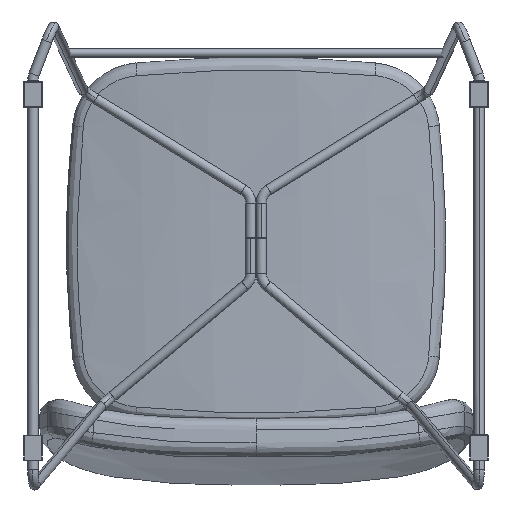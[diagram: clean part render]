
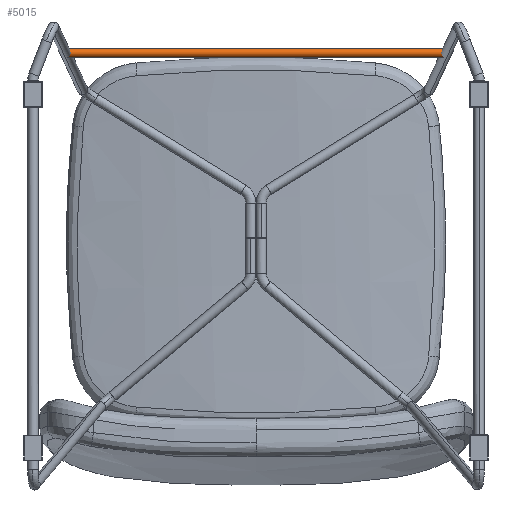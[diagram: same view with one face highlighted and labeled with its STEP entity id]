
A CAD part, front view. The second image highlights one B-rep face of the part: STEP entity #5015.
In plain terms, the highlighted cylindrical face has radius 5 mm (diameter 10 mm), a partial arc.
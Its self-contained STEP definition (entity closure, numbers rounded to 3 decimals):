
#467 = VERTEX_POINT ( 'NONE', #2524 ) ;
#682 = DIRECTION ( 'NONE',  ( 0., 0., -1. ) ) ;
#1763 = LINE ( 'NONE', #8387, #7327 ) ;
#1951 = EDGE_CURVE ( 'NONE', #2111, #6770, #9156, .T. ) ;
#2111 = VERTEX_POINT ( 'NONE', #2829 ) ;
#2130 = ORIENTED_EDGE ( 'NONE', *, *, #7806, .T. ) ;
#2453 = DIRECTION ( 'NONE',  ( 0., 0., -1. ) ) ;
#2524 = CARTESIAN_POINT ( 'NONE',  ( -223.079, 300., 219.794 ) ) ;
#2829 = CARTESIAN_POINT ( 'NONE',  ( -223.079, 300., -218.706 ) ) ;
#3426 = DIRECTION ( 'NONE',  ( -1., 0., 0. ) ) ;
#4226 = CARTESIAN_POINT ( 'NONE',  ( -228.079, 300., 219.794 ) ) ;
#5015 = ADVANCED_FACE ( 'NONE', ( #5292 ), #7950, .T. ) ;
#5132 = LINE ( 'NONE', #6910, #7965 ) ;
#5292 = FACE_OUTER_BOUND ( 'NONE', #12036, .T. ) ;
#5580 = ORIENTED_EDGE ( 'NONE', *, *, #12016, .F. ) ;
#5791 = CARTESIAN_POINT ( 'NONE',  ( -233.079, 300., 219.794 ) ) ;
#5804 = CARTESIAN_POINT ( 'NONE',  ( -233.079, 300., -218.706 ) ) ;
#6770 = VERTEX_POINT ( 'NONE', #5804 ) ;
#6910 = CARTESIAN_POINT ( 'NONE',  ( -233.079, 300., 219.794 ) ) ;
#7327 = VECTOR ( 'NONE', #12157, 1000. ) ;
#7418 = EDGE_CURVE ( 'NONE', #467, #7648, #7761, .T. ) ;
#7648 = VERTEX_POINT ( 'NONE', #5791 ) ;
#7761 = CIRCLE ( 'NONE', #9358, 5. ) ;
#7806 = EDGE_CURVE ( 'NONE', #7648, #6770, #5132, .T. ) ;
#7950 = CYLINDRICAL_SURFACE ( 'NONE', #9400, 5. ) ;
#7965 = VECTOR ( 'NONE', #8910, 1000. ) ;
#8387 = CARTESIAN_POINT ( 'NONE',  ( -223.079, 300., 219.794 ) ) ;
#8650 = ORIENTED_EDGE ( 'NONE', *, *, #7418, .T. ) ;
#8910 = DIRECTION ( 'NONE',  ( 0., 0., -1. ) ) ;
#9156 = CIRCLE ( 'NONE', #10574, 5. ) ;
#9193 = DIRECTION ( 'NONE',  ( -1., 0., 0. ) ) ;
#9310 = CARTESIAN_POINT ( 'NONE',  ( -228.079, 300., -218.706 ) ) ;
#9358 = AXIS2_PLACEMENT_3D ( 'NONE', #11036, #10969, #3426 ) ;
#9400 = AXIS2_PLACEMENT_3D ( 'NONE', #4226, #2453, #11088 ) ;
#10574 = AXIS2_PLACEMENT_3D ( 'NONE', #9310, #682, #9193 ) ;
#10969 = DIRECTION ( 'NONE',  ( 0., 0., -1. ) ) ;
#11036 = CARTESIAN_POINT ( 'NONE',  ( -228.079, 300., 219.794 ) ) ;
#11088 = DIRECTION ( 'NONE',  ( -1., 0., 0. ) ) ;
#11558 = ORIENTED_EDGE ( 'NONE', *, *, #1951, .F. ) ;
#12016 = EDGE_CURVE ( 'NONE', #467, #2111, #1763, .T. ) ;
#12036 = EDGE_LOOP ( 'NONE', ( #5580, #8650, #2130, #11558 ) ) ;
#12157 = DIRECTION ( 'NONE',  ( 0., 0., -1. ) ) ;
